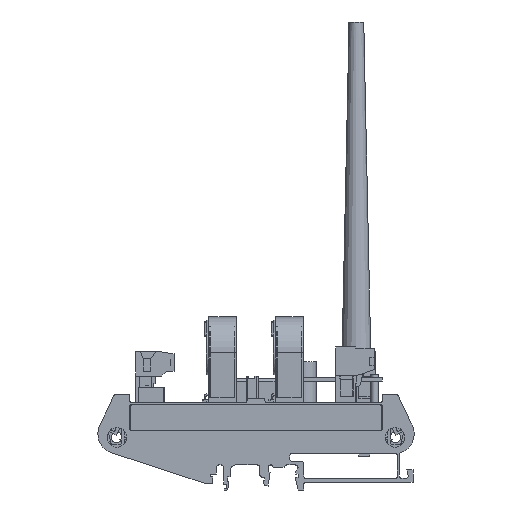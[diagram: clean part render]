
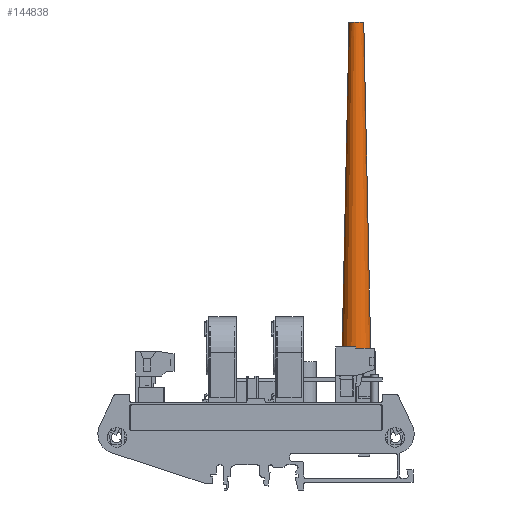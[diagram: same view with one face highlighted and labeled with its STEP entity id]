
A CAD part, left-side view. The second image highlights one B-rep face of the part: STEP entity #144838.
In plain terms, the highlighted conical face has half-angle 1.236 degrees and reference radius 6 mm.
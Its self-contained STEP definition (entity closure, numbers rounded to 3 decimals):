
#144838 = ADVANCED_FACE('',(#144839),#144852,.T.);
#144839 = FACE_BOUND('',#144840,.T.);
#144840 = EDGE_LOOP('',(#144841,#144875,#144898,#144925));
#144841 = ORIENTED_EDGE('',*,*,#144842,.F.);
#144842 = EDGE_CURVE('',#144843,#144843,#144845,.T.);
#144843 = VERTEX_POINT('',#144844);
#144844 = CARTESIAN_POINT('',(3.,0.,139.));
#144845 = SURFACE_CURVE('',#144846,(#144851,#144863),.PCURVE_S1.);
#144846 = CIRCLE('',#144847,3.);
#144847 = AXIS2_PLACEMENT_3D('',#144848,#144849,#144850);
#144848 = CARTESIAN_POINT('',(0.,0.,139.));
#144849 = DIRECTION('',(0.,0.,1.));
#144850 = DIRECTION('',(1.,0.,-0.));
#144851 = PCURVE('',#144852,#144857);
#144852 = CONICAL_SURFACE('',#144853,6.,0.022);
#144853 = AXIS2_PLACEMENT_3D('',#144854,#144855,#144856);
#144854 = CARTESIAN_POINT('',(0.,0.,0.));
#144855 = DIRECTION('',(-0.,-0.,-1.));
#144856 = DIRECTION('',(1.,0.,-0.));
#144857 = DEFINITIONAL_REPRESENTATION('',(#144858),#144862);
#144858 = LINE('',#144859,#144860);
#144859 = CARTESIAN_POINT('',(-0.,-139.));
#144860 = VECTOR('',#144861,1.);
#144861 = DIRECTION('',(-1.,-0.));
#144862 = ( GEOMETRIC_REPRESENTATION_CONTEXT(2) 
PARAMETRIC_REPRESENTATION_CONTEXT() REPRESENTATION_CONTEXT('2D SPACE',''
  ) );
#144863 = PCURVE('',#144864,#144869);
#144864 = PLANE('',#144865);
#144865 = AXIS2_PLACEMENT_3D('',#144866,#144867,#144868);
#144866 = CARTESIAN_POINT('',(0.,0.,139.));
#144867 = DIRECTION('',(0.,0.,1.));
#144868 = DIRECTION('',(1.,0.,-0.));
#144869 = DEFINITIONAL_REPRESENTATION('',(#144870),#144874);
#144870 = CIRCLE('',#144871,3.);
#144871 = AXIS2_PLACEMENT_2D('',#144872,#144873);
#144872 = CARTESIAN_POINT('',(0.,0.));
#144873 = DIRECTION('',(1.,0.));
#144874 = ( GEOMETRIC_REPRESENTATION_CONTEXT(2) 
PARAMETRIC_REPRESENTATION_CONTEXT() REPRESENTATION_CONTEXT('2D SPACE',''
  ) );
#144875 = ORIENTED_EDGE('',*,*,#144876,.F.);
#144876 = EDGE_CURVE('',#144877,#144843,#144879,.T.);
#144877 = VERTEX_POINT('',#144878);
#144878 = CARTESIAN_POINT('',(6.,0.,0.));
#144879 = SEAM_CURVE('',#144880,(#144884,#144891),.PCURVE_S1.);
#144880 = LINE('',#144881,#144882);
#144881 = CARTESIAN_POINT('',(6.,0.,0.));
#144882 = VECTOR('',#144883,1.);
#144883 = DIRECTION('',(-0.022,0.,1.));
#144884 = PCURVE('',#144852,#144885);
#144885 = DEFINITIONAL_REPRESENTATION('',(#144886),#144890);
#144886 = LINE('',#144887,#144888);
#144887 = CARTESIAN_POINT('',(-6.283,0.));
#144888 = VECTOR('',#144889,1.);
#144889 = DIRECTION('',(-0.,-1.));
#144890 = ( GEOMETRIC_REPRESENTATION_CONTEXT(2) 
PARAMETRIC_REPRESENTATION_CONTEXT() REPRESENTATION_CONTEXT('2D SPACE',''
  ) );
#144891 = PCURVE('',#144852,#144892);
#144892 = DEFINITIONAL_REPRESENTATION('',(#144893),#144897);
#144893 = LINE('',#144894,#144895);
#144894 = CARTESIAN_POINT('',(0.,-0.));
#144895 = VECTOR('',#144896,1.);
#144896 = DIRECTION('',(-0.,-1.));
#144897 = ( GEOMETRIC_REPRESENTATION_CONTEXT(2) 
PARAMETRIC_REPRESENTATION_CONTEXT() REPRESENTATION_CONTEXT('2D SPACE',''
  ) );
#144898 = ORIENTED_EDGE('',*,*,#144899,.T.);
#144899 = EDGE_CURVE('',#144877,#144877,#144900,.T.);
#144900 = SURFACE_CURVE('',#144901,(#144906,#144913),.PCURVE_S1.);
#144901 = CIRCLE('',#144902,6.);
#144902 = AXIS2_PLACEMENT_3D('',#144903,#144904,#144905);
#144903 = CARTESIAN_POINT('',(0.,0.,0.));
#144904 = DIRECTION('',(0.,0.,1.));
#144905 = DIRECTION('',(1.,0.,-0.));
#144906 = PCURVE('',#144852,#144907);
#144907 = DEFINITIONAL_REPRESENTATION('',(#144908),#144912);
#144908 = LINE('',#144909,#144910);
#144909 = CARTESIAN_POINT('',(-0.,-0.));
#144910 = VECTOR('',#144911,1.);
#144911 = DIRECTION('',(-1.,-0.));
#144912 = ( GEOMETRIC_REPRESENTATION_CONTEXT(2) 
PARAMETRIC_REPRESENTATION_CONTEXT() REPRESENTATION_CONTEXT('2D SPACE',''
  ) );
#144913 = PCURVE('',#144914,#144919);
#144914 = PLANE('',#144915);
#144915 = AXIS2_PLACEMENT_3D('',#144916,#144917,#144918);
#144916 = CARTESIAN_POINT('',(0.,0.,0.));
#144917 = DIRECTION('',(0.,0.,1.));
#144918 = DIRECTION('',(1.,0.,-0.));
#144919 = DEFINITIONAL_REPRESENTATION('',(#144920),#144924);
#144920 = CIRCLE('',#144921,6.);
#144921 = AXIS2_PLACEMENT_2D('',#144922,#144923);
#144922 = CARTESIAN_POINT('',(0.,0.));
#144923 = DIRECTION('',(1.,0.));
#144924 = ( GEOMETRIC_REPRESENTATION_CONTEXT(2) 
PARAMETRIC_REPRESENTATION_CONTEXT() REPRESENTATION_CONTEXT('2D SPACE',''
  ) );
#144925 = ORIENTED_EDGE('',*,*,#144876,.T.);
